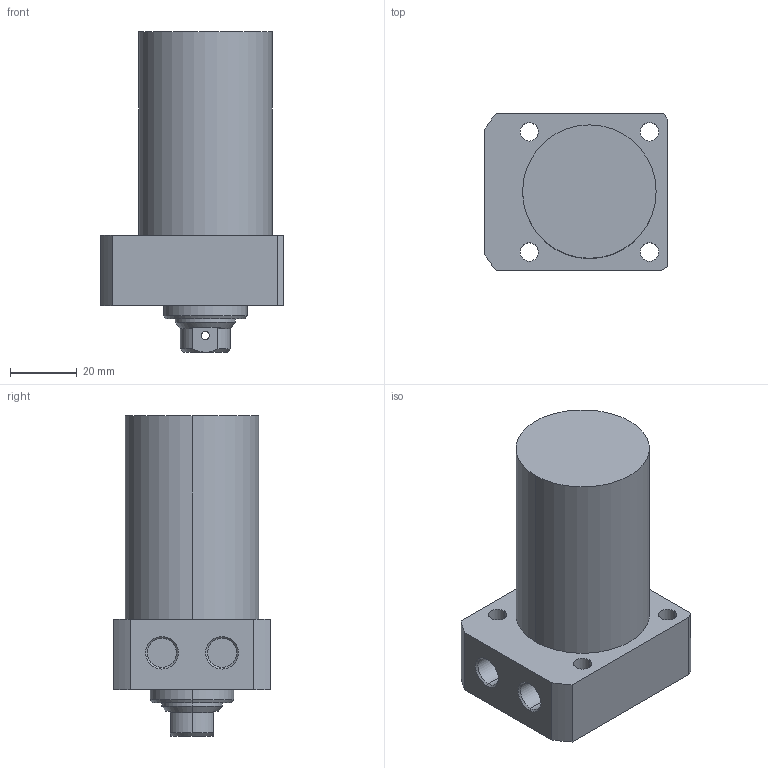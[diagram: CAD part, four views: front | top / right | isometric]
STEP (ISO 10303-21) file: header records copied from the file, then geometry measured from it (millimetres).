
FILE_DESCRIPTION (( 'STEP AP203' ), '1' );
FILE_NAME ('CLL-R040-CB-050.STEP', '2017-05-10T12:00:46', ( '' ), ( '' ), 'SwSTEP 2.0', 'SolidWorks 2015', '' );
FILE_SCHEMA (( 'CONFIG_CONTROL_DESIGN' ));
Length unit declared in the file: millimetre
Products named in the file (1): CLL-R040-CB-050
Bounding box: 55 x 47 x 96 mm (x, y, z)
Volume: 129689.2 mm3; surface area: 20158.6 mm2
Topology: 1 solids, 1 shells, 67 faces, 159 edges, 100 vertices
Faces by surface type: cylinder 33, plane 19, cone 15
Entity records: 2129 total; most frequent: CARTESIAN_POINT 441, DIRECTION 358, ORIENTED_EDGE 314, EDGE_CURVE 157, AXIS2_PLACEMENT_3D 145, VERTEX_POINT 100, EDGE_LOOP 87, CIRCLE 77
